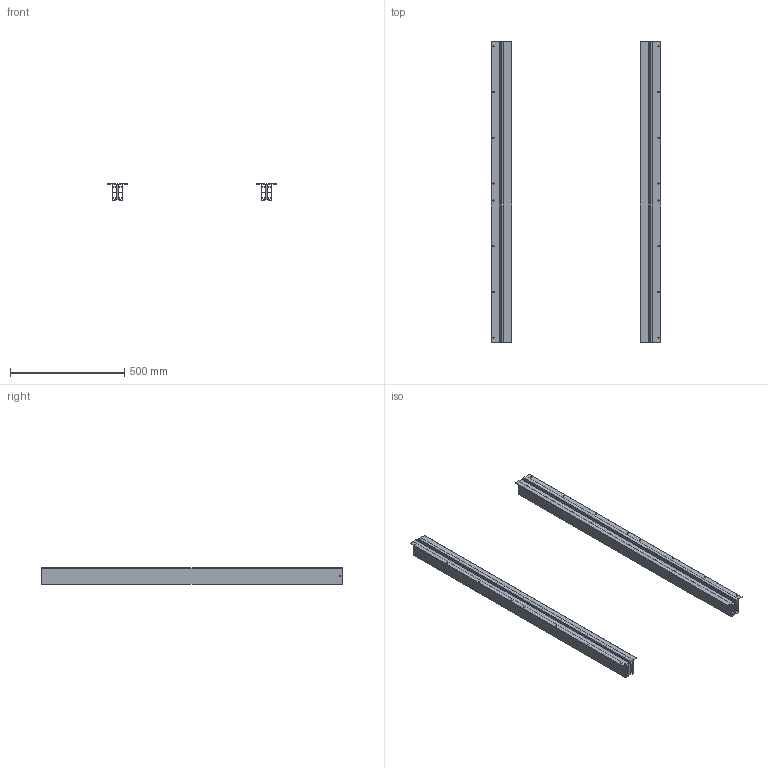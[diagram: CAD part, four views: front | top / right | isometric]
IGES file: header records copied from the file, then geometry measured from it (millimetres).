
Start section: Data from Parasolid IGES Translator 15.0.47, Copyright(c) 2006 Siemens P LM Software. All Rights Reserved.
Global section: file name: 9133048.igs; native system:  By UGS Corp.; preprocessor: XPlus GENERIC/IGES 3.0; author: Noname; organization: Noname; date: 20140618.112019; units: millimetre
Bounding box: 740.8 x 1315 x 73.7 mm (x, y, z)
Surface area: 1919266.3 mm2 (no closed solid volume)
Topology: 0 solids, 0 shells, 138 faces, 764 edges, 688 vertices
Faces by surface type: extrusion 92, revolution 46
